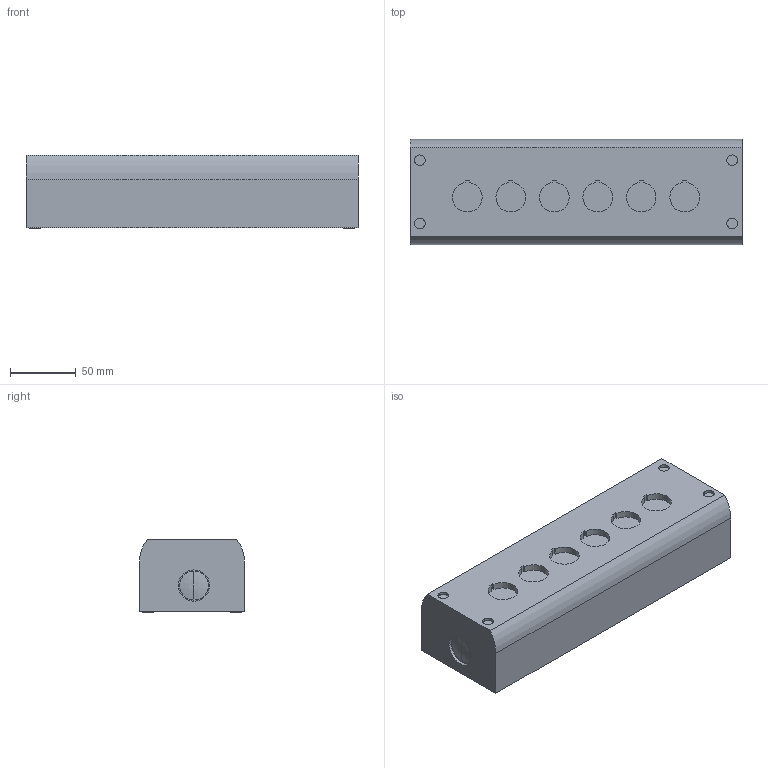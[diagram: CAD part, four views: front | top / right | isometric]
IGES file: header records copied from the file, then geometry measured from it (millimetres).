
Start section: Data from XPlus IGES,  Spatial Corp. Copyright (c) 1999-2004
Global section: file name: 216540.igs; native system:  By Spatial Corp.; preprocessor: XPlus ACIS/IGES 3.0; author: Noname; organization: Noname; date: 20120614.155848; units: millimetre
Bounding box: 252 x 80 x 56 mm (x, y, z)
Surface area: 77754.9 mm2 (no closed solid volume)
Topology: 0 solids, 0 shells, 96 faces, 428 edges, 424 vertices
Faces by surface type: revolution 52, extrusion 44
